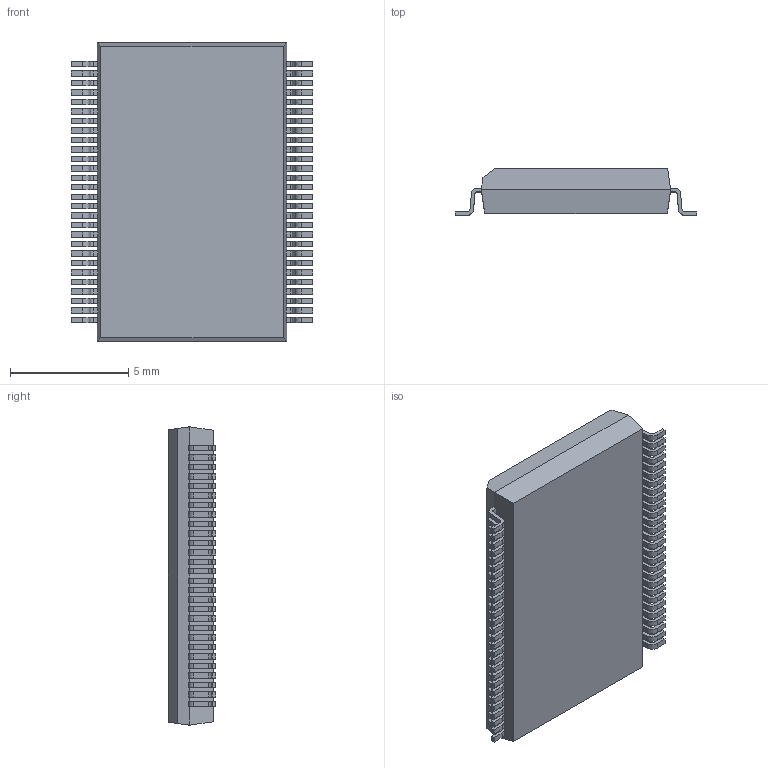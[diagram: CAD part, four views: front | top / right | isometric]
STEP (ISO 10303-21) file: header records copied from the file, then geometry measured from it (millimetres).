
FILE_DESCRIPTION (( 'STEP AP214' ), '1' );
FILE_NAME ('SSOP40P1000X200-56_MO-152.JC.STEP', '2014-10-30T11:23:26', ( 'Tester2' ), ( '' ), 'SwSTEP 2.0', 'SolidWorks 2012', '' );
FILE_SCHEMA (( 'AUTOMOTIVE_DESIGN' ));
Length unit declared in the file: millimetre
Products named in the file (1): SSOP40P1000X200-56_MO-152.JC
Bounding box: 10.2 x 2 x 12.6 mm (x, y, z)
Volume: 188.8 mm3; surface area: 346.2 mm2
Topology: 1 solids, 1 shells, 742 faces, 2213 edges, 1474 vertices
Faces by surface type: plane 516, cylinder 226
Entity records: 32912 total; most frequent: CARTESIAN_POINT 4430, ORIENTED_EDGE 4426, DIRECTION 4151, EDGE_CURVE 2213, VECTOR 1761, LINE 1761, VERTEX_POINT 1474, AXIS2_PLACEMENT_3D 1195
